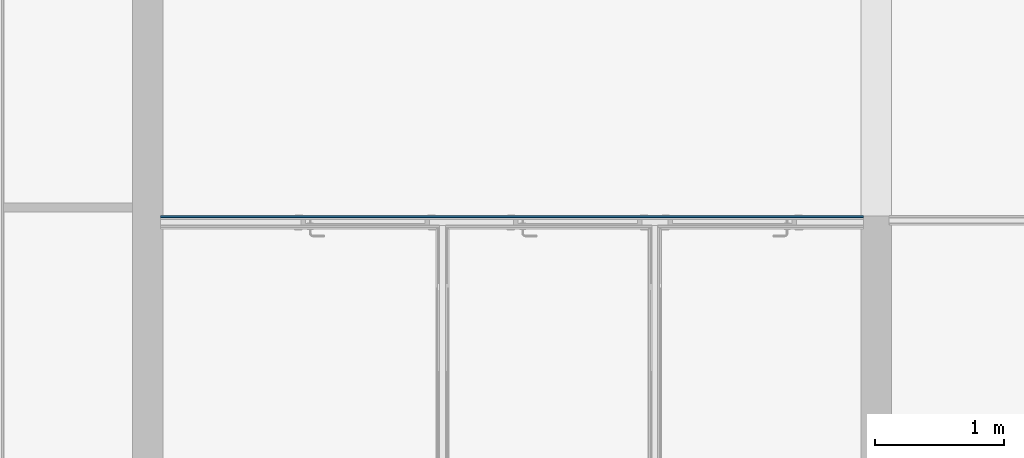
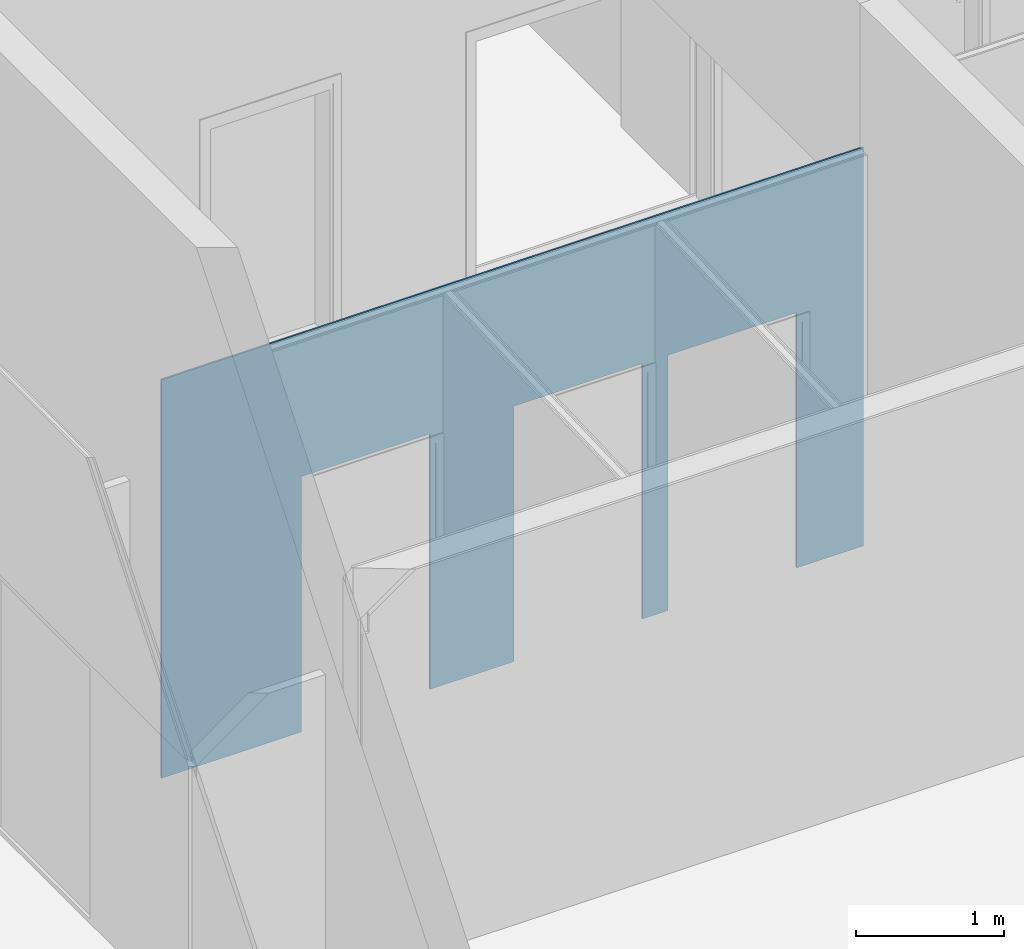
# One storey, part 15 of 34: 1 building element part, 3 openings, 1 element without a shape of its own.
"""IFC2X3 building model written with IfcOpenShell, lengths in metres."""

import ifcopenshell
import ifcopenshell.guid

model = None  # the IFC model being written
_history = None  # IfcOwnerHistory: only IFC2X3 demands one
_inside = {}  # id of a spatial element -> (the spatial element, [elements in it])
_under = {}  # id of a project, library or spatial element -> (it, [spatial elements below it])
_declared = {}  # id of a project -> (the project, [libraries it declares])
_typed = {}  # id of a type object -> (the type object, [elements of that type])
_made_of = {}  # id of a material, layer set ... -> (it, [elements and type objects made of it])


def new_model(schema):
    """Start an empty IFC model of exactly this schema.

    Asked for "IFC4X3", IfcOpenShell would pick the latest addendum, in which some entities
    have other attributes; the version numbers below select the first issue.
    IFC2X3 requires an IfcOwnerHistory on every rooted entity: one is made here for all.
    """
    global model, _history
    if schema == "IFC4X3":
        model = ifcopenshell.file(schema_version=(4, 3, 0, 0))
    else:
        model = ifcopenshell.file(schema=schema)
    _inside.clear()
    _under.clear()
    _declared.clear()
    _typed.clear()
    _made_of.clear()
    _history = None
    if model.schema == "IFC2X3":
        org = make("IfcOrganization", Name="unknown")
        user = make(
            "IfcPersonAndOrganization",
            ThePerson=make("IfcPerson", FamilyName="unknown"),
            TheOrganization=org,
        )
        app = make(
            "IfcApplication",
            ApplicationDeveloper=org,
            Version="unknown",
            ApplicationFullName="unknown",
            ApplicationIdentifier="unknown",
        )
        _history = make(
            "IfcOwnerHistory",
            OwningUser=user,
            OwningApplication=app,
            ChangeAction="ADDED",
            CreationDate=0,
        )
    return model


def make(cls, **values):
    """One entity of the class cls with the attributes given. An attribute that is None is left unset."""
    return model.create_entity(
        cls, **{name: value for name, value in values.items() if value is not None}
    )


def entity(cls, *values):
    """Any entity or typed value of the class cls, its attributes in the order of the schema. None: left unset."""
    e = model.create_entity(cls)
    for i, value in enumerate(values):
        if value is not None:
            e[i] = value
    return e


def rooted(cls, **values):
    """An entity with a GlobalId (a new one), such as an element, a storey or a relation."""
    return make(cls, GlobalId=ifcopenshell.guid.new(), OwnerHistory=_history, **values)


def si_unit(unit_type, name, prefix=None):
    """IfcSIUnit, for example si_unit("LENGTHUNIT", "METRE", prefix="MILLI")."""
    return make("IfcSIUnit", UnitType=unit_type, Prefix=prefix, Name=name)


def converted_unit(unit_type, name, factor, base, dimensions=None, offset=None):
    """IfcConversionBasedUnit, such as the inch: factor (a typed value) times the base unit."""
    return make(
        "IfcConversionBasedUnit"
        if offset is None
        else "IfcConversionBasedUnitWithOffset",
        ConversionOffset=offset,
        Dimensions=None
        if dimensions is None
        else entity("IfcDimensionalExponents", *dimensions),
        UnitType=unit_type,
        Name=name,
        ConversionFactor=make(
            "IfcMeasureWithUnit", ValueComponent=factor, UnitComponent=base
        ),
    )


def derived_unit(unit_type, elements):
    """IfcDerivedUnit: a product of units, each with its exponent."""
    return make(
        "IfcDerivedUnit",
        Elements=[
            make("IfcDerivedUnitElement", Unit=unit, Exponent=power)
            for unit, power in elements
        ],
        UnitType=unit_type,
    )


def money_unit(currency):
    """IfcMonetaryUnit."""
    return make("IfcMonetaryUnit", Currency=currency)


def assignment(units):
    """IfcUnitAssignment: the units of a project."""
    return None if units is None else make("IfcUnitAssignment", Units=units)


def point(xyz):
    """IfcCartesianPoint."""
    return None if xyz is None else make("IfcCartesianPoint", Coordinates=xyz)


def direction(xyz):
    """IfcDirection."""
    return None if xyz is None else make("IfcDirection", DirectionRatios=xyz)


def frame(location, z_axis=None, x_axis=None):
    """IfcAxis2Placement3D, a coordinate frame: its origin and axes. An axis left out is left unset."""
    return make(
        "IfcAxis2Placement3D",
        Location=point(location),
        Axis=direction(z_axis),
        RefDirection=direction(x_axis),
    )


def frame_2d(location, x_axis=None):
    """IfcAxis2Placement2D, a coordinate frame in the plane: its origin and x axis."""
    return make(
        "IfcAxis2Placement2D", Location=point(location), RefDirection=direction(x_axis)
    )


def origin_with_axes():
    """The frame at (0, 0, 0) with the z axis (0, 0, 1) and the x axis (1, 0, 0) written out."""
    return frame((0.0, 0.0, 0.0), z_axis=(0.0, 0.0, 1.0), x_axis=(1.0, 0.0, 0.0))


def origin_2d_with_axis():
    """The frame at (0, 0) in the plane with the x axis (1, 0) written out."""
    return frame_2d((0.0, 0.0), x_axis=(1.0, 0.0))


def place(relative_to, where):
    """IfcLocalPlacement: puts the frame where relative to a parent placement (None: the world)."""
    return make(
        "IfcLocalPlacement", PlacementRelTo=relative_to, RelativePlacement=where
    )


def context(
    kind, dimensions, precision=None, world=None, true_north=None, identifier=None
):
    """IfcGeometricRepresentationContext, for example the 3D "Model" context."""
    return make(
        "IfcGeometricRepresentationContext",
        ContextIdentifier=identifier,
        ContextType=kind,
        CoordinateSpaceDimension=dimensions,
        Precision=precision,
        WorldCoordinateSystem=world,
        TrueNorth=true_north,
    )


def subcontext(parent, identifier, kind, view, scale=None):
    """IfcGeometricRepresentationSubContext, for example "Body" below "Model"."""
    return make(
        "IfcGeometricRepresentationSubContext",
        ContextIdentifier=identifier,
        ContextType=kind,
        ParentContext=parent,
        TargetScale=scale,
        TargetView=view,
    )


def project(units=None, contexts=None):
    """IfcProject with its units and contexts."""
    return rooted(
        "IfcProject",
        Name="project",
        RepresentationContexts=contexts,
        UnitsInContext=assignment(units),
    )


def spatial(cls, under=None, at=None, **own):
    """A site, building, storey or space (cls), placed at a placement, below another one or the project."""
    s = rooted(cls, ObjectPlacement=at, **own)
    if under is not None:
        _under.setdefault(under.id(), (under, []))[1].append(s)
    return s


def polyline(points):
    """IfcPolyline through the points."""
    return make("IfcPolyline", Points=[point(p) for p in points])


def profile(cls, at=None, kind="AREA", **sizes):
    """A parametric profile (cls). Its sizes go by their IFC names, for example OverallWidth=200.0."""
    return make(cls, ProfileType=kind, Position=at, **sizes)


def rectangle(**sizes):
    """IfcRectangleProfileDef."""
    return profile("IfcRectangleProfileDef", **sizes)


def outline(outer, holes=None, kind="AREA"):
    """IfcArbitraryClosedProfileDef: a profile drawn as a closed curve; with holes, ...WithVoids."""
    if holes is None:
        return make("IfcArbitraryClosedProfileDef", ProfileType=kind, OuterCurve=outer)
    return make(
        "IfcArbitraryProfileDefWithVoids",
        ProfileType=kind,
        OuterCurve=outer,
        InnerCurves=holes,
    )


def extrude(swept, where, along, depth):
    """IfcExtrudedAreaSolid: the profile swept, set in the frame where, extruded along a direction by depth."""
    return make(
        "IfcExtrudedAreaSolid",
        SweptArea=swept,
        Position=where,
        ExtrudedDirection=direction(along),
        Depth=depth,
    )


def boolean(op, a, b):
    """IfcBooleanResult of two solids."""
    return make("IfcBooleanResult", Operator=op, FirstOperand=a, SecondOperand=b)


def faces_of(points, faces, orient=None, outer=None):
    """IfcFace entities. A face is a list of loops; a loop is a list of indices into points, from 0.

    orient and outer hold one flag for each loop. By default every Orientation is true, the
    first loop of a face is its IfcFaceOuterBound and the others are IfcFaceBound.
    """
    made = []
    for i, loops in enumerate(faces):
        bounds = []
        for j, loop in enumerate(loops):
            is_outer = j == 0 if outer is None else outer[i][j]
            bounds.append(
                make(
                    "IfcFaceOuterBound" if is_outer else "IfcFaceBound",
                    Bound=make("IfcPolyLoop", Polygon=[points[k] for k in loop]),
                    Orientation=True if orient is None else orient[i][j],
                )
            )
        made.append(make("IfcFace", Bounds=bounds))
    return made


def faceted_brep(points, faces, orient=None, outer=None, voids=None):
    """IfcFacetedBrep: a solid bounded by flat faces; with voids (closed shells), ...WithVoids."""
    shared = [point(p) for p in points]
    hull = make("IfcClosedShell", CfsFaces=faces_of(shared, faces, orient, outer))
    if voids is None:
        return make("IfcFacetedBrep", Outer=hull)
    return make(
        "IfcFacetedBrepWithVoids",
        Outer=hull,
        Voids=[
            make(cls, CfsFaces=faces_of(shared, fs, o, b)) for cls, fs, o, b in voids
        ],
    )


def shape(context_of_items, identifier, shape_type, items):
    """IfcShapeRepresentation: the items that make up one representation, for example the "Body"."""
    return make(
        "IfcShapeRepresentation",
        ContextOfItems=context_of_items,
        RepresentationIdentifier=identifier,
        RepresentationType=shape_type,
        Items=items,
    )


def material(Name=None, Category=None):
    """IfcMaterial."""
    return make("IfcMaterial", Name=Name, Category=Category)


def made_of(thing, what):
    """Note that an element or type object is made of a material, layer set ...; save() writes the relation."""
    if what is not None:
        _made_of.setdefault(what.id(), (what, []))[1].append(thing)
    return thing


def type_object(cls, material=None, **own):
    """A type object (cls), such as IfcWallType, which elements share."""
    return made_of(rooted(cls, **own), material)


def element(
    cls,
    number,
    at=None,
    inside=None,
    cuts=None,
    type_object=None,
    material=None,
    context=None,
    identifier="Body",
    shape_type=None,
    held_by="IfcProductDefinitionShape",
    body=None,
    shapes=None,
    **own,
):
    """One element of the class cls, such as IfcWall. Its Tag is "e" and its number.

    at: its placement. inside: the storey or other place that contains it. cuts: it is an
    opening in that element (IfcRelVoidsElement). A single representation is given by context,
    identifier, shape_type and body (its items); several are given by shapes. held_by: the class
    of the entity that holds the representations. save() writes the other relations.
    """
    e = rooted(cls, Tag="e%d" % number, ObjectPlacement=at, **own)
    if body is not None:
        shapes = [shape(context, identifier, shape_type, body)]
    if shapes is not None:
        e.Representation = make(held_by, Representations=shapes)
    if inside is not None:
        _inside.setdefault(inside.id(), (inside, []))[1].append(e)
    if cuts is not None:
        rooted(
            "IfcRelVoidsElement", RelatingBuildingElement=cuts, RelatedOpeningElement=e
        )
    if type_object is not None:
        _typed.setdefault(type_object.id(), (type_object, []))[1].append(e)
    return made_of(e, material)


def aggregate(whole, parts):
    """IfcRelAggregates: a whole, such as a stair, and the parts it consists of."""
    return rooted("IfcRelAggregates", RelatingObject=whole, RelatedObjects=parts)


def save(model, path):
    """Write the relations noted so far, then the file.

    IfcRelAggregates (storeys below a building ...), IfcRelContainedInSpatialStructure (elements
    in a storey), IfcRelDefinesByType, IfcRelAssociatesMaterial and IfcRelDeclares: one each for
    every whole, place, type object, material and project.
    """
    for whole, parts in _under.values():
        aggregate(whole, parts)
    for where, things in _inside.values():
        rooted(
            "IfcRelContainedInSpatialStructure",
            RelatedElements=things,
            RelatingStructure=where,
        )
    for kind, things in _typed.values():
        rooted("IfcRelDefinesByType", RelatedObjects=things, RelatingType=kind)
    for what, things in _made_of.values():
        rooted("IfcRelAssociatesMaterial", RelatedObjects=things, RelatingMaterial=what)
    for by, libraries in _declared.values():
        rooted("IfcRelDeclares", RelatingContext=by, RelatedDefinitions=libraries)
    model.write(path)


model = new_model("IFC2X3")

# Units and contexts
model_context = context("Model", 3, precision=1e-05, world=origin_with_axes(), true_north=direction((0.0, 1.0)))
body_context = subcontext(model_context, "Body", "Model", "MODEL_VIEW")
ifc_project = project(units=[si_unit("LENGTHUNIT", "METRE"), si_unit("AREAUNIT", "SQUARE_METRE"), si_unit("VOLUMEUNIT", "CUBIC_METRE"), converted_unit("PLANEANGLEUNIT", "DEGREE", entity("IfcPlaneAngleMeasure", 0.0174532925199), si_unit("PLANEANGLEUNIT", "RADIAN"), dimensions=[0, 0, 0, 0, 0, 0, 0]), money_unit("CHF"), converted_unit("TIMEUNIT", "Year", entity("IfcTimeMeasure", 31556926.0), si_unit("TIMEUNIT", "SECOND"), dimensions=[0, 0, 1, 0, 0, 0, 0]), si_unit("MASSUNIT", "GRAM", prefix="KILO"), si_unit("THERMODYNAMICTEMPERATUREUNIT", "DEGREE_CELSIUS"), si_unit("LUMINOUSINTENSITYUNIT", "LUMEN"), si_unit("ENERGYUNIT", "JOULE", prefix="MEGA"), derived_unit("THERMALCONDUCTANCEUNIT", [(si_unit("POWERUNIT", "WATT"), 1), (si_unit("LENGTHUNIT", "METRE"), -1), (si_unit("THERMODYNAMICTEMPERATUREUNIT", "KELVIN"), -1)]), derived_unit("SPECIFICHEATCAPACITYUNIT", [(si_unit("ENERGYUNIT", "JOULE"), 1), (si_unit("MASSUNIT", "GRAM", prefix="KILO"), -1), (si_unit("THERMODYNAMICTEMPERATUREUNIT", "KELVIN"), -1)]), derived_unit("MASSDENSITYUNIT", [(si_unit("MASSUNIT", "GRAM", prefix="KILO"), 1), (si_unit("VOLUMEUNIT", "CUBIC_METRE"), -1)])], contexts=[model_context])

# Site, building, storey
site_placement = place(None, origin_with_axes())
site = spatial("IfcSite", under=ifc_project, at=site_placement, Name="Site", CompositionType="ELEMENT")
building_placement = place(site_placement, origin_with_axes())
building = spatial("IfcBuilding", under=site, at=building_placement, Name="Bâtiment", CompositionType="ELEMENT")
storey_placement = place(building_placement, origin_with_axes())
storey = spatial("IfcBuildingStorey", under=building, at=storey_placement, Name="Rez-de-chaussée", CompositionType="ELEMENT", Elevation=0.0)

# Wall, openings, building element part
wall_type = type_object("IfcWallType", Name="Cloison 100/48 100", PredefinedType="NOTDEFINED")
wall_placement = place(storey_placement, frame((18.6894697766, 10.9801256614, 0.0), z_axis=(0.0, 0.0, 1.0), x_axis=(1.0, 0.0, 0.0)))
wall = element("IfcWall", 1, at=wall_placement, inside=storey, type_object=wall_type, Name="MUR_EXT-008")
opening_1_placement = place(wall_placement, frame((1.69, 0.0, 0.0), z_axis=(0.0, 0.0, 1.0), x_axis=(1.0, 0.0, 0.0)))
element("IfcOpeningElement", 2, at=opening_1_placement, cuts=wall, Name="PORTE-PP90 A2 - PF1/2H", context=body_context, shape_type="SweptSolid", body=[
    extrude(rectangle(XDim=1.0, YDim=2.1, at=origin_2d_with_axis()), frame((0.0, -0.1, 1.05), z_axis=(0.0, -1.0, 0.0), x_axis=(1.0, 0.0, 0.0)), (0.0, 0.0, -1.0), 0.3),
    extrude(rectangle(XDim=1.1, YDim=2.15, at=origin_2d_with_axis()), frame((0.0, -0.1, 1.075), z_axis=(0.0, -1.0, 0.0), x_axis=(1.0, 0.0, 0.0)), (0.0, 0.0, 1.0), 0.1),
    extrude(rectangle(XDim=1.09, YDim=2.145, at=origin_2d_with_axis()), frame((0.0, 0.0, 1.0725), z_axis=(0.0, 1.0, 0.0), x_axis=(1.0, 0.0, 0.0)), (0.0, 0.0, 1.0), 0.1),
])
opening_2_placement = place(wall_placement, frame((3.34, 0.0, 0.0), z_axis=(0.0, 0.0, 1.0), x_axis=(1.0, 0.0, 0.0)))
element("IfcOpeningElement", 3, at=opening_2_placement, cuts=wall, Name="PORTE-PP90 A2 - PF1/2H", context=body_context, shape_type="SweptSolid", body=[
    extrude(rectangle(XDim=1.0, YDim=2.1, at=origin_2d_with_axis()), frame((0.0, -0.1, 1.05), z_axis=(0.0, -1.0, 0.0), x_axis=(1.0, 0.0, 0.0)), (0.0, 0.0, -1.0), 0.3),
    extrude(rectangle(XDim=1.1, YDim=2.15, at=origin_2d_with_axis()), frame((0.0, -0.1, 1.075), z_axis=(0.0, -1.0, 0.0), x_axis=(1.0, 0.0, 0.0)), (0.0, 0.0, 1.0), 0.1),
    extrude(rectangle(XDim=1.09, YDim=2.145, at=origin_2d_with_axis()), frame((0.0, 0.0, 1.0725), z_axis=(0.0, 1.0, 0.0), x_axis=(1.0, 0.0, 0.0)), (0.0, 0.0, 1.0), 0.1),
])
opening_3_placement = place(wall_placement, frame((4.54, 0.0, 0.0), z_axis=(0.0, 0.0, 1.0), x_axis=(1.0, 0.0, 0.0)))
element("IfcOpeningElement", 4, at=opening_3_placement, cuts=wall, Name="PORTE-PP90 A2 - PF1/2H", context=body_context, shape_type="SweptSolid", body=[
    extrude(rectangle(XDim=1.0, YDim=2.1, at=origin_2d_with_axis()), frame((0.0, -0.1, 1.05), z_axis=(0.0, 1.0, 0.0), x_axis=(-1.0, 0.0, 0.0)), (0.0, 0.0, 1.0), 0.3),
    extrude(rectangle(XDim=1.1, YDim=2.15, at=origin_2d_with_axis()), frame((0.0, -0.1, 1.075), z_axis=(0.0, 1.0, 0.0), x_axis=(-1.0, 0.0, 0.0)), (0.0, 0.0, -1.0), 0.1),
    extrude(rectangle(XDim=1.09, YDim=2.145, at=origin_2d_with_axis()), frame((0.0, 0.0, 1.0725), z_axis=(0.0, -1.0, 0.0), x_axis=(-1.0, 0.0, 0.0)), (0.0, 0.0, -1.0), 0.1),
])
ifc_material = material(Name="Finition int - Plaque de plâtre")
building_element_part_placement = place(wall_placement, origin_with_axes())
building_element_part = element("IfcBuildingElementPart", 5, at=building_element_part_placement, material=ifc_material, Name="Finition int - Plaque de plâtre", context=body_context, shape_type="CSG", body=[
    boolean("DIFFERENCE", boolean("DIFFERENCE", boolean("DIFFERENCE", boolean("DIFFERENCE", boolean("DIFFERENCE", extrude(outline(polyline([(-0.12, -0.013), (5.78, -0.013), (5.78, 0.0), (-0.12, 0.0), (-0.12, -0.013)])), origin_with_axes(), (0.0, 0.0, 1.0), 3.32433501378), faceted_brep([(3.977, -0.087, 3.27475939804), (3.977, -0.087, 0.0), (3.903, -0.087, 0.0), (3.903, -0.087, 3.27475939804), (2.327, -0.087, 3.27475939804), (2.327, -0.087, 0.0), (2.253, -0.087, 0.0), (2.253, -0.087, 3.27475939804), (0.100000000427, -0.087, 3.27475939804), (0.1, -0.087, 0.0), (-0.12, -0.087, 0.0), (-0.12, -0.087, 3.32433501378), (5.78, -0.087, 3.32433501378), (5.78, -0.087, 0.0), (5.56, -0.087, 0.0), (5.56000000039, -0.087, 3.27475939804), (3.977, -0.1, 3.27430439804), (3.977, -0.1, 0.0), (3.903, -0.1, 0.0), (3.903, -0.1, 3.27430439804), (2.327, -0.1, 3.27430439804), (2.327, -0.1, 0.0), (2.253, -0.1, 0.0), (2.253, -0.1, 3.27430439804), (0.100000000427, -0.1, 3.27430439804), (0.1, -0.1, 0.0), (-0.12, -0.1, 0.0), (-0.12, -0.1, 3.32433501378), (5.78, -0.1, 3.32433501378), (5.78, -0.1, 0.0), (5.56, -0.1, 0.0), (5.56000000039, -0.1, 3.27430439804)], [[[0, 1, 2, 3, 4, 5, 6, 7, 8, 9, 10, 11, 12, 13, 14, 15]], [[1, 0, 16, 17]], [[1, 17, 18, 2]], [[3, 2, 18, 19]], [[4, 3, 19, 20]], [[5, 4, 20, 21]], [[5, 21, 22, 6]], [[7, 6, 22, 23]], [[8, 7, 23, 24]], [[9, 8, 24, 25]], [[9, 25, 26, 10]], [[11, 10, 26, 27]], [[11, 27, 28, 12]], [[28, 29, 13, 12]], [[30, 14, 13, 29]], [[15, 14, 30, 31]], [[0, 15, 31, 16]], [[31, 30, 29, 28, 27, 26, 25, 24, 23, 22, 21, 20, 19, 18, 17, 16]]])), faceted_brep([(3.964, -0.074, 3.27521439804), (3.964, -0.074, 0.0), (3.916, -0.074, 0.0), (3.916, -0.074, 3.27521439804), (2.314, -0.074, 3.27521439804), (2.314, -0.074, 0.0), (2.266, -0.074, 0.0), (2.266, -0.074, 3.27521439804), (0.100000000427, -0.074, 3.27521439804), (0.1, -0.074, 0.0), (-0.12, -0.074, 0.0), (-0.12, -0.074, 3.32433501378), (5.78, -0.074, 3.32433501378), (5.78, -0.074, 0.0), (5.56, -0.074, 0.0), (5.56000000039, -0.074, 3.27521439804), (3.964, -0.087, 3.27475939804), (3.964, -0.087, 0.0), (3.916, -0.087, 0.0), (3.916, -0.087, 3.27475939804), (3.903, -0.087, 3.27475939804), (2.327, -0.087, 3.27475939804), (2.314, -0.087, 3.27475939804), (2.314, -0.087, 0.0), (2.266, -0.087, 0.0), (2.266, -0.087, 3.27475939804), (2.253, -0.087, 3.27475939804), (0.100000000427, -0.087, 3.27475939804), (0.1, -0.087, 0.0), (-0.12, -0.087, 0.0), (-0.12, -0.087, 3.32433501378), (5.78, -0.087, 3.32433501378), (5.78, -0.087, 0.0), (5.56, -0.087, 0.0), (5.56000000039, -0.087, 3.27475939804), (3.977, -0.087, 3.27475939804)], [[[0, 1, 2, 3, 4, 5, 6, 7, 8, 9, 10, 11, 12, 13, 14, 15]], [[1, 0, 16, 17]], [[1, 17, 18, 2]], [[3, 2, 18, 19]], [[4, 3, 19, 20, 21, 22]], [[5, 4, 22, 23]], [[5, 23, 24, 6]], [[7, 6, 24, 25]], [[8, 7, 25, 26, 27]], [[28, 9, 8, 27]], [[9, 28, 29, 10]], [[11, 10, 29, 30]], [[11, 30, 31, 12]], [[31, 32, 13, 12]], [[33, 14, 13, 32]], [[14, 33, 34, 15]], [[0, 15, 34, 35, 16]], [[34, 33, 32, 31, 30, 29, 28, 27, 26, 25, 24, 23, 22, 21, 20, 19, 18, 17, 16, 35]]])), faceted_brep([(0.100000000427, -0.026, 3.27689439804), (0.1, -0.026, 0.0), (-0.12, -0.026, 0.0), (-0.12, -0.026, 3.32433501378), (5.78, -0.026, 3.32433501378), (5.78, -0.026, 0.0), (5.56, -0.026, 0.0), (5.56000000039, -0.026, 3.27689439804), (0.1, -0.074, 0.0), (0.100000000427, -0.074, 3.27521439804), (-0.12, -0.074, 0.0), (-0.12, -0.074, 3.32433501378), (5.78, -0.074, 3.32433501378), (5.78, -0.074, 0.0), (5.56, -0.074, 0.0), (5.56000000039, -0.074, 3.27521439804), (3.964, -0.074, 3.27521439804), (3.916, -0.074, 3.27521439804), (2.314, -0.074, 3.27521439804), (2.266, -0.074, 3.27521439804)], [[[0, 1, 2, 3, 4, 5, 6, 7]], [[8, 1, 0, 9]], [[1, 8, 10, 2]], [[3, 2, 10, 11]], [[3, 11, 12, 4]], [[12, 13, 5, 4]], [[14, 6, 5, 13]], [[6, 14, 15, 7]], [[0, 7, 15, 16, 17, 18, 19, 9]], [[15, 14, 13, 12, 11, 10, 8, 9, 19, 18, 17, 16]]])), faceted_brep([(0.100000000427, -0.013, 3.27734939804), (0.1, -0.013, 0.0), (-0.12, -0.013, 0.0), (-0.12, -0.013, 3.32433501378), (5.78, -0.013, 3.32433501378), (5.78, -0.013, 0.0), (5.56, -0.013, 0.0), (5.56000000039, -0.013, 3.27734939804), (0.100000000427, -0.026, 3.27689439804), (0.1, -0.026, 0.0), (-0.12, -0.026, 0.0), (-0.12, -0.026, 3.32433501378), (5.78, -0.026, 3.32433501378), (5.78, -0.026, 0.0), (5.56, -0.026, 0.0), (5.56000000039, -0.026, 3.27689439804)], [[[0, 1, 2, 3, 4, 5, 6, 7]], [[1, 0, 8, 9]], [[1, 9, 10, 2]], [[3, 2, 10, 11]], [[3, 11, 12, 4]], [[12, 13, 5, 4]], [[14, 6, 5, 13]], [[7, 6, 14, 15]], [[0, 7, 15, 8]], [[15, 14, 13, 12, 11, 10, 9, 8]]])), faceted_brep([(0.100000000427, 0.0, 3.27780439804), (0.1, 0.0, 0.0), (-0.12, 0.0, 0.0), (-0.12, 0.0, 3.32433501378), (5.78, 0.0, 3.32433501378), (5.78, 0.0, 0.0), (5.56, 0.0, 0.0), (5.56000000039, 0.0, 3.27780439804), (0.100000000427, -0.013, 3.27734939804), (0.1, -0.013, 0.0), (-0.12, -0.013, 0.0), (-0.12, -0.013, 3.32433501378), (5.78, -0.013, 3.32433501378), (5.78, -0.013, 0.0), (5.56, -0.013, 0.0), (5.56000000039, -0.013, 3.27734939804)], [[[0, 1, 2, 3, 4, 5, 6, 7]], [[1, 0, 8, 9]], [[1, 9, 10, 2]], [[3, 2, 10, 11]], [[3, 11, 12, 4]], [[12, 13, 5, 4]], [[14, 6, 5, 13]], [[7, 6, 14, 15]], [[0, 7, 15, 8]], [[15, 14, 13, 12, 11, 10, 9, 8]]])),
])
aggregate(wall, [building_element_part])

save(model, "model.ifc")
